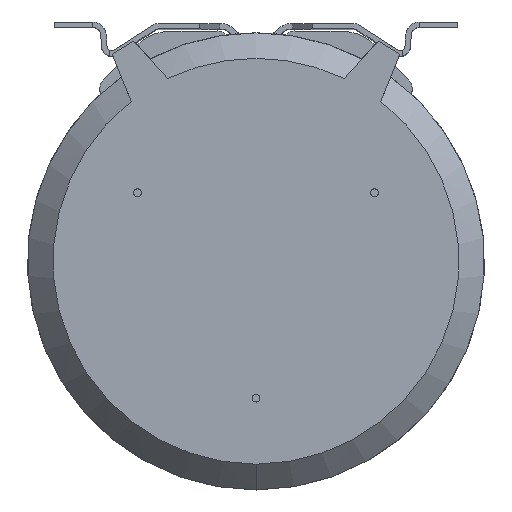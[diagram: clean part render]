
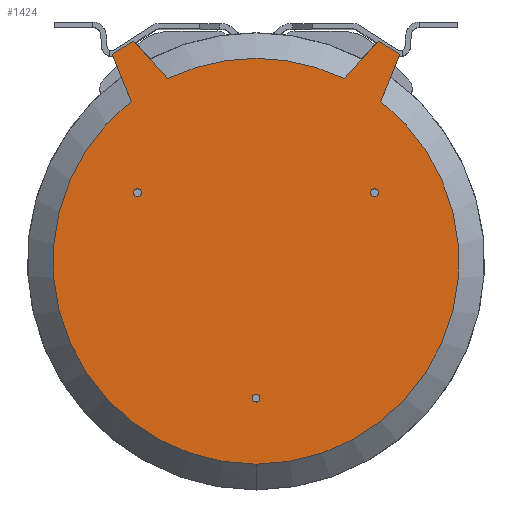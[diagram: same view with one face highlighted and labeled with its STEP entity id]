
A CAD part, top view. The second image highlights one B-rep face of the part: STEP entity #1424.
In plain terms, the highlighted planar face has unit normal (0, 0, 1).
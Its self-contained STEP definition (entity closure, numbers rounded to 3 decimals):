
#92 = DIRECTION ( 'NONE',  ( 1., 0., 0. ) ) ;
#233 = AXIS2_PLACEMENT_3D ( 'NONE', #1209, #2303, #4628 ) ;
#244 = CARTESIAN_POINT ( 'NONE',  ( 89.479, 50., 103.04 ) ) ;
#273 = ORIENTED_EDGE ( 'NONE', *, *, #1547, .F. ) ;
#445 = CARTESIAN_POINT ( 'NONE',  ( 89.193, 160.953, 103.04 ) ) ;
#505 = EDGE_CURVE ( 'NONE', #1147, #2515, #4194, .T. ) ;
#516 = FACE_BOUND ( 'NONE', #6098, .T. ) ;
#539 = DIRECTION ( 'NONE',  ( 0., 0., 1. ) ) ;
#659 = CIRCLE ( 'NONE', #2736, 2.876 ) ;
#718 = CARTESIAN_POINT ( 'NONE',  ( 91.158, 116.967, 103.04 ) ) ;
#856 = EDGE_LOOP ( 'NONE', ( #273, #3572 ) ) ;
#879 = CARTESIAN_POINT ( 'NONE',  ( -105.086, 151.441, 103.04 ) ) ;
#924 = ORIENTED_EDGE ( 'NONE', *, *, #1543, .T. ) ;
#946 = ORIENTED_EDGE ( 'NONE', *, *, #2380, .T. ) ;
#1055 = DIRECTION ( 'NONE',  ( -1., 0., 0. ) ) ;
#1105 = VECTOR ( 'NONE', #2959, 1000. ) ;
#1147 = VERTEX_POINT ( 'NONE', #5074 ) ;
#1153 = AXIS2_PLACEMENT_3D ( 'NONE', #3853, #5813, #1401 ) ;
#1172 = CARTESIAN_POINT ( 'NONE',  ( 86.603, 50., 103.04 ) ) ;
#1194 = DIRECTION ( 'NONE',  ( -0.669, 0.743, 0. ) ) ;
#1209 = CARTESIAN_POINT ( 'NONE',  ( 0., -100., 103.04 ) ) ;
#1265 = VECTOR ( 'NONE', #3834, 1000. ) ;
#1280 = DIRECTION ( 'NONE',  ( 0.375, 0.927, 0. ) ) ;
#1355 = VERTEX_POINT ( 'NONE', #718 ) ;
#1384 = CARTESIAN_POINT ( 'NONE',  ( 0., 0., 103.04 ) ) ;
#1401 = DIRECTION ( 'NONE',  ( -0.615, 0.789, 0. ) ) ;
#1424 = ADVANCED_FACE ( 'NONE', ( #5030, #516, #4058, #5957 ), #4030, .T. ) ;
#1452 = ORIENTED_EDGE ( 'NONE', *, *, #2612, .T. ) ;
#1541 = EDGE_LOOP ( 'NONE', ( #5332, #4621, #946, #924, #5933, #1885, #3645, #2438, #1452 ) ) ;
#1543 = EDGE_CURVE ( 'NONE', #3053, #3896, #6017, .T. ) ;
#1547 = EDGE_CURVE ( 'NONE', #1741, #3060, #659, .T. ) ;
#1664 = VERTEX_POINT ( 'NONE', #4782 ) ;
#1686 = DIRECTION ( 'NONE',  ( 0., 0., 1. ) ) ;
#1720 = CARTESIAN_POINT ( 'NONE',  ( 105.086, 151.441, 103.04 ) ) ;
#1741 = VERTEX_POINT ( 'NONE', #3958 ) ;
#1849 = EDGE_LOOP ( 'NONE', ( #3953, #2631 ) ) ;
#1885 = ORIENTED_EDGE ( 'NONE', *, *, #3328, .T. ) ;
#2025 = VERTEX_POINT ( 'NONE', #5288 ) ;
#2173 = CARTESIAN_POINT ( 'NONE',  ( 105.086, 151.441, 103.04 ) ) ;
#2198 = VERTEX_POINT ( 'NONE', #4639 ) ;
#2221 = VECTOR ( 'NONE', #3785, 1000. ) ;
#2303 = DIRECTION ( 'NONE',  ( 0., 0., 1. ) ) ;
#2314 = CARTESIAN_POINT ( 'NONE',  ( -2.876, -100., 103.04 ) ) ;
#2380 = EDGE_CURVE ( 'NONE', #2025, #3053, #4351, .T. ) ;
#2434 = CARTESIAN_POINT ( 'NONE',  ( 86.603, 50., 103.04 ) ) ;
#2438 = ORIENTED_EDGE ( 'NONE', *, *, #5753, .T. ) ;
#2443 = DIRECTION ( 'NONE',  ( 0., 0., 1. ) ) ;
#2492 = LINE ( 'NONE', #6281, #1265 ) ;
#2511 = EDGE_CURVE ( 'NONE', #3060, #1741, #6091, .T. ) ;
#2515 = VERTEX_POINT ( 'NONE', #244 ) ;
#2612 = EDGE_CURVE ( 'NONE', #4852, #1355, #5792, .T. ) ;
#2631 = ORIENTED_EDGE ( 'NONE', *, *, #5492, .F. ) ;
#2685 = CIRCLE ( 'NONE', #4642, 2.876 ) ;
#2711 = EDGE_CURVE ( 'NONE', #1664, #2198, #4785, .T. ) ;
#2736 = AXIS2_PLACEMENT_3D ( 'NONE', #3304, #2879, #4751 ) ;
#2819 = LINE ( 'NONE', #5609, #3405 ) ;
#2839 = DIRECTION ( 'NONE',  ( -1., 0., 0. ) ) ;
#2879 = DIRECTION ( 'NONE',  ( 0., 0., 1. ) ) ;
#2959 = DIRECTION ( 'NONE',  ( -0.669, -0.743, 0. ) ) ;
#2983 = AXIS2_PLACEMENT_3D ( 'NONE', #1172, #1686, #5627 ) ;
#3015 = DIRECTION ( 'NONE',  ( 0., 0., 1. ) ) ;
#3053 = VERTEX_POINT ( 'NONE', #4264 ) ;
#3060 = VERTEX_POINT ( 'NONE', #2314 ) ;
#3261 = AXIS2_PLACEMENT_3D ( 'NONE', #1384, #6254, #5710 ) ;
#3271 = CIRCLE ( 'NONE', #5916, 148.294 ) ;
#3304 = CARTESIAN_POINT ( 'NONE',  ( 0., -100., 103.04 ) ) ;
#3328 = EDGE_CURVE ( 'NONE', #6059, #1664, #2492, .T. ) ;
#3353 = VERTEX_POINT ( 'NONE', #5470 ) ;
#3405 = VECTOR ( 'NONE', #1194, 1000. ) ;
#3436 = CARTESIAN_POINT ( 'NONE',  ( -89.193, 160.953, 103.04 ) ) ;
#3455 = AXIS2_PLACEMENT_3D ( 'NONE', #5255, #4775, #2839 ) ;
#3462 = CARTESIAN_POINT ( 'NONE',  ( -86.603, 50., 103.04 ) ) ;
#3503 = CIRCLE ( 'NONE', #2983, 2.876 ) ;
#3521 = CARTESIAN_POINT ( 'NONE',  ( 0., -148.294, 103.04 ) ) ;
#3572 = ORIENTED_EDGE ( 'NONE', *, *, #2511, .F. ) ;
#3634 = CARTESIAN_POINT ( 'NONE',  ( 91.158, 116.967, 103.04 ) ) ;
#3645 = ORIENTED_EDGE ( 'NONE', *, *, #2711, .T. ) ;
#3715 = VERTEX_POINT ( 'NONE', #6013 ) ;
#3780 = DIRECTION ( 'NONE',  ( 0.375, -0.927, 0. ) ) ;
#3785 = DIRECTION ( 'NONE',  ( -0.858, 0.514, 0. ) ) ;
#3834 = DIRECTION ( 'NONE',  ( -0.858, -0.514, 0. ) ) ;
#3853 = CARTESIAN_POINT ( 'NONE',  ( 0., 0., 103.04 ) ) ;
#3896 = VERTEX_POINT ( 'NONE', #4956 ) ;
#3953 = ORIENTED_EDGE ( 'NONE', *, *, #4682, .F. ) ;
#3958 = CARTESIAN_POINT ( 'NONE',  ( 2.876, -100., 103.04 ) ) ;
#4030 = PLANE ( 'NONE',  #4380 ) ;
#4039 = CARTESIAN_POINT ( 'NONE',  ( 0., 0., 103.04 ) ) ;
#4058 = FACE_BOUND ( 'NONE', #1849, .T. ) ;
#4172 = CIRCLE ( 'NONE', #3455, 2.876 ) ;
#4194 = CIRCLE ( 'NONE', #5521, 2.876 ) ;
#4264 = CARTESIAN_POINT ( 'NONE',  ( 64.497, 133.533, 103.04 ) ) ;
#4351 = LINE ( 'NONE', #445, #1105 ) ;
#4379 = VECTOR ( 'NONE', #1280, 1000. ) ;
#4380 = AXIS2_PLACEMENT_3D ( 'NONE', #5897, #4931, #92 ) ;
#4521 = DIRECTION ( 'NONE',  ( -0.615, 0.789, 0. ) ) ;
#4575 = VERTEX_POINT ( 'NONE', #2173 ) ;
#4599 = EDGE_CURVE ( 'NONE', #2515, #1147, #3503, .T. ) ;
#4621 = ORIENTED_EDGE ( 'NONE', *, *, #6040, .T. ) ;
#4628 = DIRECTION ( 'NONE',  ( -1., 0., 0. ) ) ;
#4639 = CARTESIAN_POINT ( 'NONE',  ( -91.158, 116.967, 103.04 ) ) ;
#4642 = AXIS2_PLACEMENT_3D ( 'NONE', #3462, #2443, #5337 ) ;
#4682 = EDGE_CURVE ( 'NONE', #3715, #3353, #2685, .T. ) ;
#4751 = DIRECTION ( 'NONE',  ( 1., 0., 0. ) ) ;
#4775 = DIRECTION ( 'NONE',  ( 0., 0., 1. ) ) ;
#4782 = CARTESIAN_POINT ( 'NONE',  ( -105.086, 151.441, 103.04 ) ) ;
#4785 = LINE ( 'NONE', #879, #6197 ) ;
#4852 = VERTEX_POINT ( 'NONE', #3521 ) ;
#4931 = DIRECTION ( 'NONE',  ( 0., 0., 1. ) ) ;
#4956 = CARTESIAN_POINT ( 'NONE',  ( -64.497, 133.533, 103.04 ) ) ;
#5030 = FACE_BOUND ( 'NONE', #856, .T. ) ;
#5061 = EDGE_CURVE ( 'NONE', #3896, #6059, #2819, .T. ) ;
#5074 = CARTESIAN_POINT ( 'NONE',  ( 83.726, 50., 103.04 ) ) ;
#5158 = LINE ( 'NONE', #3634, #4379 ) ;
#5198 = ORIENTED_EDGE ( 'NONE', *, *, #505, .F. ) ;
#5255 = CARTESIAN_POINT ( 'NONE',  ( -86.603, 50., 103.04 ) ) ;
#5288 = CARTESIAN_POINT ( 'NONE',  ( 89.193, 160.953, 103.04 ) ) ;
#5332 = ORIENTED_EDGE ( 'NONE', *, *, #5423, .T. ) ;
#5337 = DIRECTION ( 'NONE',  ( 1., 0., 0. ) ) ;
#5423 = EDGE_CURVE ( 'NONE', #1355, #4575, #5158, .T. ) ;
#5470 = CARTESIAN_POINT ( 'NONE',  ( -89.479, 50., 103.04 ) ) ;
#5492 = EDGE_CURVE ( 'NONE', #3353, #3715, #4172, .T. ) ;
#5521 = AXIS2_PLACEMENT_3D ( 'NONE', #2434, #539, #1055 ) ;
#5609 = CARTESIAN_POINT ( 'NONE',  ( -64.497, 133.533, 103.04 ) ) ;
#5627 = DIRECTION ( 'NONE',  ( 1., 0., 0. ) ) ;
#5710 = DIRECTION ( 'NONE',  ( 0.435, 0.9, 0. ) ) ;
#5753 = EDGE_CURVE ( 'NONE', #2198, #4852, #3271, .T. ) ;
#5792 = CIRCLE ( 'NONE', #1153, 148.294 ) ;
#5813 = DIRECTION ( 'NONE',  ( 0., 0., 1. ) ) ;
#5897 = CARTESIAN_POINT ( 'NONE',  ( 0., 0., 103.04 ) ) ;
#5916 = AXIS2_PLACEMENT_3D ( 'NONE', #4039, #3015, #4521 ) ;
#5933 = ORIENTED_EDGE ( 'NONE', *, *, #5061, .T. ) ;
#5957 = FACE_OUTER_BOUND ( 'NONE', #1541, .T. ) ;
#6013 = CARTESIAN_POINT ( 'NONE',  ( -83.726, 50., 103.04 ) ) ;
#6017 = CIRCLE ( 'NONE', #3261, 148.294 ) ;
#6040 = EDGE_CURVE ( 'NONE', #4575, #2025, #6135, .T. ) ;
#6059 = VERTEX_POINT ( 'NONE', #3436 ) ;
#6091 = CIRCLE ( 'NONE', #233, 2.876 ) ;
#6098 = EDGE_LOOP ( 'NONE', ( #5198, #6218 ) ) ;
#6135 = LINE ( 'NONE', #1720, #2221 ) ;
#6197 = VECTOR ( 'NONE', #3780, 1000. ) ;
#6218 = ORIENTED_EDGE ( 'NONE', *, *, #4599, .F. ) ;
#6254 = DIRECTION ( 'NONE',  ( 0., 0., 1. ) ) ;
#6281 = CARTESIAN_POINT ( 'NONE',  ( -89.193, 160.953, 103.04 ) ) ;
